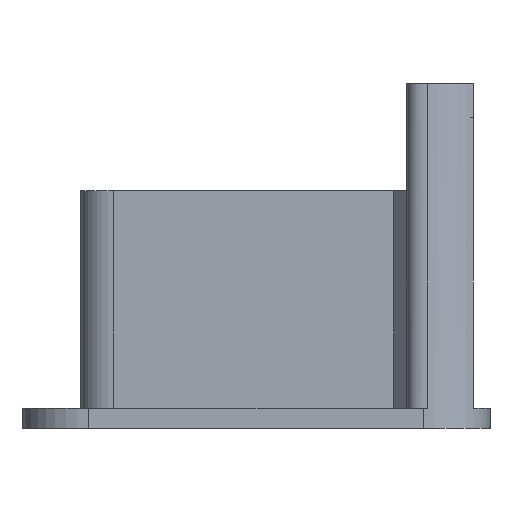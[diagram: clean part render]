
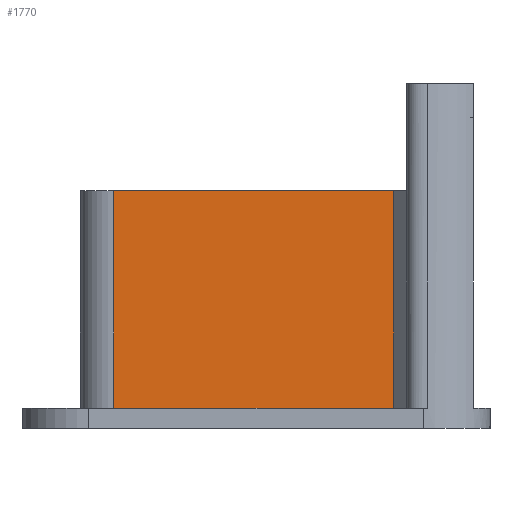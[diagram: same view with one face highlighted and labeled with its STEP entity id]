
A CAD part, left-side view. The second image highlights one B-rep face of the part: STEP entity #1770.
In plain terms, the highlighted planar face has unit normal (-1, 0, 0).
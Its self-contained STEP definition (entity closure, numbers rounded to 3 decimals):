
#366=ORIENTED_EDGE('',*,*,#673,.T.);
#367=ORIENTED_EDGE('',*,*,#809,.T.);
#368=ORIENTED_EDGE('',*,*,#810,.F.);
#369=ORIENTED_EDGE('',*,*,#807,.T.);
#673=EDGE_CURVE('',#938,#937,#1114,.T.);
#807=EDGE_CURVE('',#1038,#938,#1203,.T.);
#809=EDGE_CURVE('',#937,#1039,#1204,.T.);
#810=EDGE_CURVE('',#1038,#1039,#1205,.T.);
#937=VERTEX_POINT('',#2488);
#938=VERTEX_POINT('',#2490);
#1038=VERTEX_POINT('',#2778);
#1039=VERTEX_POINT('',#2782);
#1114=LINE('',#2489,#1292);
#1203=LINE('',#2777,#1381);
#1204=LINE('',#2781,#1382);
#1205=LINE('',#2783,#1383);
#1292=VECTOR('',#2008,1000.);
#1381=VECTOR('',#2251,1000.);
#1382=VECTOR('',#2256,1000.);
#1383=VECTOR('',#2257,1000.);
#1508=EDGE_LOOP('',(#366,#367,#368,#369));
#1614=FACE_BOUND('',#1508,.T.);
#1694=PLANE('',#1921);
#1770=ADVANCED_FACE('',(#1614),#1694,.F.);
#1921=AXIS2_PLACEMENT_3D('',#2780,#2254,#2255);
#2008=DIRECTION('',(0.,-1.,0.));
#2251=DIRECTION('',(0.,0.,-1.));
#2254=DIRECTION('',(1.,0.,0.));
#2255=DIRECTION('',(0.,0.,-1.));
#2256=DIRECTION('',(0.,0.,1.));
#2257=DIRECTION('',(0.,-1.,0.));
#2488=CARTESIAN_POINT('',(-82.5,-20.567,3.));
#2489=CARTESIAN_POINT('',(-82.5,0.,3.));
#2490=CARTESIAN_POINT('',(-82.5,21.25,3.));
#2777=CARTESIAN_POINT('',(-82.5,21.25,35.5));
#2778=CARTESIAN_POINT('',(-82.5,21.25,35.5));
#2780=CARTESIAN_POINT('',(-82.5,0.,35.5));
#2781=CARTESIAN_POINT('',(-82.5,-20.567,35.5));
#2782=CARTESIAN_POINT('',(-82.5,-20.567,35.5));
#2783=CARTESIAN_POINT('',(-82.5,0.,35.5));
